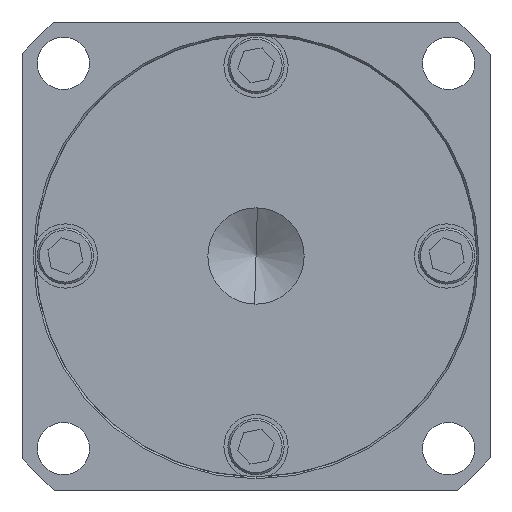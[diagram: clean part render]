
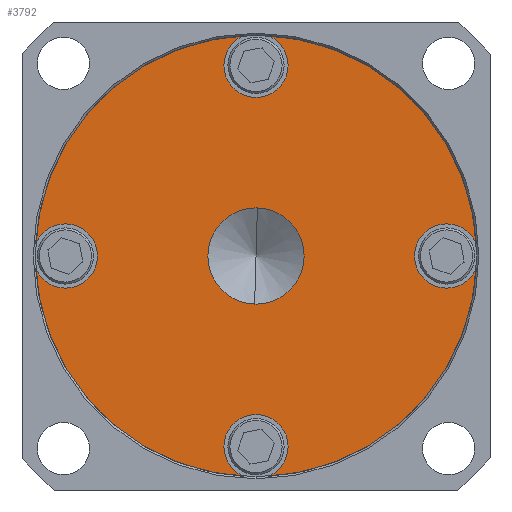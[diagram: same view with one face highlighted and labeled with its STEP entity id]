
A CAD part, front view. The second image highlights one B-rep face of the part: STEP entity #3792.
In plain terms, the highlighted planar face has unit normal (0, -1, 0).
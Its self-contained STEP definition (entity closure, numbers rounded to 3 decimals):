
#3103=CARTESIAN_POINT('',(0.,0.,0.));
#3104=DIRECTION('',(0.,-1.,0.));
#3105=DIRECTION('',(0.054,0.,-0.999));
#3106=AXIS2_PLACEMENT_3D('',#3103,#3104,#3105);
#3111=CARTESIAN_POINT('',(0.,0.,-23.75));
#3112=DIRECTION('',(0.,1.,0.));
#3113=DIRECTION('',(0.,0.,1.));
#3114=AXIS2_PLACEMENT_3D('',#3111,#3112,#3113);
#3119=CARTESIAN_POINT('',(0.,0.,-23.75));
#3120=DIRECTION('',(0.,1.,0.));
#3121=DIRECTION('',(-0.374,0.,-0.927));
#3122=AXIS2_PLACEMENT_3D('',#3119,#3120,#3121);
#3127=CARTESIAN_POINT('',(0.,0.,0.));
#3128=DIRECTION('',(0.,-1.,0.));
#3129=DIRECTION('',(-0.999,0.,-0.054));
#3130=AXIS2_PLACEMENT_3D('',#3127,#3128,#3129);
#3135=CARTESIAN_POINT('',(-23.75,0.,0.));
#3136=DIRECTION('',(0.,1.,0.));
#3137=DIRECTION('',(0.,0.,-1.));
#3138=AXIS2_PLACEMENT_3D('',#3135,#3136,#3137);
#3143=CARTESIAN_POINT('',(-23.75,0.,0.));
#3144=DIRECTION('',(0.,1.,0.));
#3145=DIRECTION('',(0.,0.,1.));
#3146=AXIS2_PLACEMENT_3D('',#3143,#3144,#3145);
#3151=CARTESIAN_POINT('',(-23.75,0.,0.));
#3152=DIRECTION('',(0.,1.,0.));
#3153=DIRECTION('',(-0.927,0.,0.374));
#3154=AXIS2_PLACEMENT_3D('',#3151,#3152,#3153);
#3159=CARTESIAN_POINT('',(0.,0.,0.));
#3160=DIRECTION('',(0.,-1.,0.));
#3161=DIRECTION('',(-0.054,0.,0.999));
#3162=AXIS2_PLACEMENT_3D('',#3159,#3160,#3161);
#3167=CARTESIAN_POINT('',(0.,0.,23.75));
#3168=DIRECTION('',(0.,1.,0.));
#3169=DIRECTION('',(0.,0.,-1.));
#3170=AXIS2_PLACEMENT_3D('',#3167,#3168,#3169);
#3175=CARTESIAN_POINT('',(0.,0.,23.75));
#3176=DIRECTION('',(0.,1.,0.));
#3177=DIRECTION('',(0.374,0.,0.927));
#3178=AXIS2_PLACEMENT_3D('',#3175,#3176,#3177);
#3183=CARTESIAN_POINT('',(0.,0.,0.));
#3184=DIRECTION('',(0.,-1.,0.));
#3185=DIRECTION('',(0.999,0.,0.054));
#3186=AXIS2_PLACEMENT_3D('',#3183,#3184,#3185);
#3191=CARTESIAN_POINT('',(23.75,0.,0.));
#3192=DIRECTION('',(0.,1.,0.));
#3193=DIRECTION('',(0.,0.,1.));
#3194=AXIS2_PLACEMENT_3D('',#3191,#3192,#3193);
#3199=CARTESIAN_POINT('',(23.75,0.,0.));
#3200=DIRECTION('',(0.,1.,0.));
#3201=DIRECTION('',(0.,0.,-1.));
#3202=AXIS2_PLACEMENT_3D('',#3199,#3200,#3201);
#3207=CARTESIAN_POINT('',(23.75,0.,0.));
#3208=DIRECTION('',(0.,1.,0.));
#3209=DIRECTION('',(0.927,0.,-0.374));
#3210=AXIS2_PLACEMENT_3D('',#3207,#3208,#3209);
#3215=CARTESIAN_POINT('',(0.,0.,0.));
#3216=DIRECTION('',(0.,1.,0.));
#3217=DIRECTION('',(0.,0.,-1.));
#3218=AXIS2_PLACEMENT_3D('',#3215,#3216,#3217);
#3223=CARTESIAN_POINT('',(0.,0.,0.));
#3224=DIRECTION('',(0.,1.,0.));
#3225=DIRECTION('',(0.,0.,1.));
#3226=AXIS2_PLACEMENT_3D('',#3223,#3224,#3225);
#3416=CARTESIAN_POINT('',(23.75,0.,-4.));
#3417=VERTEX_POINT('',#3416);
#3418=CARTESIAN_POINT('',(27.459,0.,-1.497));
#3419=VERTEX_POINT('',#3418);
#3426=CARTESIAN_POINT('',(23.75,0.,4.));
#3427=VERTEX_POINT('',#3426);
#3438=CARTESIAN_POINT('',(1.497,0.,-27.459));
#3439=VERTEX_POINT('',#3438);
#3448=CARTESIAN_POINT('',(0.,0.,-19.75));
#3449=VERTEX_POINT('',#3448);
#3450=CARTESIAN_POINT('',(-1.497,0.,-27.459));
#3451=VERTEX_POINT('',#3450);
#3452=CARTESIAN_POINT('',(27.459,0.,1.497));
#3453=VERTEX_POINT('',#3452);
#3470=CARTESIAN_POINT('',(1.497,0.,27.459));
#3471=VERTEX_POINT('',#3470);
#3476=CARTESIAN_POINT('',(0.,0.,6.));
#3477=VERTEX_POINT('',#3476);
#3478=CARTESIAN_POINT('',(0.,0.,-6.));
#3479=VERTEX_POINT('',#3478);
#3482=CARTESIAN_POINT('',(-23.75,0.,-4.));
#3483=VERTEX_POINT('',#3482);
#3484=CARTESIAN_POINT('',(-23.75,0.,4.));
#3485=VERTEX_POINT('',#3484);
#3486=CARTESIAN_POINT('',(-27.459,0.,-1.497));
#3487=VERTEX_POINT('',#3486);
#3488=CARTESIAN_POINT('',(0.,0.,19.75));
#3489=CARTESIAN_POINT('',(-1.497,0.,27.459));
#3490=VERTEX_POINT('',#3488);
#3491=VERTEX_POINT('',#3489);
#3496=CARTESIAN_POINT('',(-27.459,0.,1.497));
#3497=VERTEX_POINT('',#3496);
#3760=CARTESIAN_POINT('',(0.,0.,0.));
#3761=DIRECTION('',(0.,1.,0.));
#3762=DIRECTION('',(0.,0.,-1.));
#3763=AXIS2_PLACEMENT_3D('',#3760,#3761,#3762);
#3764=PLANE('',#3763);
#3765=ORIENTED_EDGE('',*,*,#3652,.F.);
#3767=ORIENTED_EDGE('',*,*,#3766,.F.);
#3769=ORIENTED_EDGE('',*,*,#3768,.F.);
#3770=ORIENTED_EDGE('',*,*,#3688,.F.);
#3772=ORIENTED_EDGE('',*,*,#3771,.F.);
#3774=ORIENTED_EDGE('',*,*,#3773,.F.);
#3776=ORIENTED_EDGE('',*,*,#3775,.F.);
#3777=ORIENTED_EDGE('',*,*,#3680,.F.);
#3778=ORIENTED_EDGE('',*,*,#3749,.F.);
#3779=ORIENTED_EDGE('',*,*,#3755,.F.);
#3780=ORIENTED_EDGE('',*,*,#3657,.F.);
#3781=ORIENTED_EDGE('',*,*,#3605,.F.);
#3782=ORIENTED_EDGE('',*,*,#3620,.F.);
#3783=ORIENTED_EDGE('',*,*,#3635,.F.);
#3784=EDGE_LOOP('',(#3765,#3767,#3769,#3770,#3772,#3774,#3776,#3777,#3778,#3779,
#3780,#3781,#3782,#3783));
#3785=FACE_OUTER_BOUND('',#3784,.F.);
#3787=ORIENTED_EDGE('',*,*,#3786,.F.);
#3789=ORIENTED_EDGE('',*,*,#3788,.F.);
#3790=EDGE_LOOP('',(#3787,#3789));
#3791=FACE_BOUND('',#3790,.F.);
#3107=CIRCLE('',#3106,27.5);
#3115=CIRCLE('',#3114,4.);
#3123=CIRCLE('',#3122,4.);
#3131=CIRCLE('',#3130,27.5);
#3139=CIRCLE('',#3138,4.);
#3147=CIRCLE('',#3146,4.);
#3155=CIRCLE('',#3154,4.);
#3163=CIRCLE('',#3162,27.5);
#3171=CIRCLE('',#3170,4.);
#3179=CIRCLE('',#3178,4.);
#3187=CIRCLE('',#3186,27.5);
#3195=CIRCLE('',#3194,4.);
#3203=CIRCLE('',#3202,4.);
#3211=CIRCLE('',#3210,4.);
#3219=CIRCLE('',#3218,6.);
#3227=CIRCLE('',#3226,6.);
#3605=EDGE_CURVE('',#3427,#3453,#3195,.T.);
#3620=EDGE_CURVE('',#3417,#3427,#3203,.T.);
#3635=EDGE_CURVE('',#3419,#3417,#3211,.T.);
#3652=EDGE_CURVE('',#3439,#3419,#3107,.T.);
#3657=EDGE_CURVE('',#3453,#3471,#3187,.T.);
#3680=EDGE_CURVE('',#3491,#3497,#3163,.T.);
#3688=EDGE_CURVE('',#3487,#3451,#3131,.T.);
#3749=EDGE_CURVE('',#3490,#3491,#3171,.T.);
#3755=EDGE_CURVE('',#3471,#3490,#3179,.T.);
#3766=EDGE_CURVE('',#3449,#3439,#3115,.T.);
#3768=EDGE_CURVE('',#3451,#3449,#3123,.T.);
#3771=EDGE_CURVE('',#3483,#3487,#3139,.T.);
#3773=EDGE_CURVE('',#3485,#3483,#3147,.T.);
#3775=EDGE_CURVE('',#3497,#3485,#3155,.T.);
#3786=EDGE_CURVE('',#3479,#3477,#3219,.T.);
#3788=EDGE_CURVE('',#3477,#3479,#3227,.T.);
#3792=ADVANCED_FACE('',(#3785,#3791),#3764,.F.);
